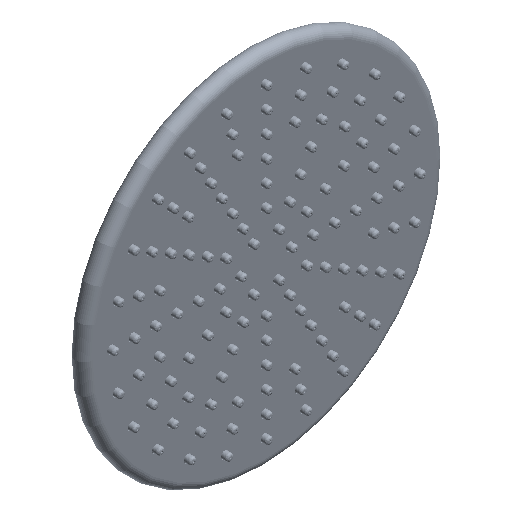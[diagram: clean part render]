
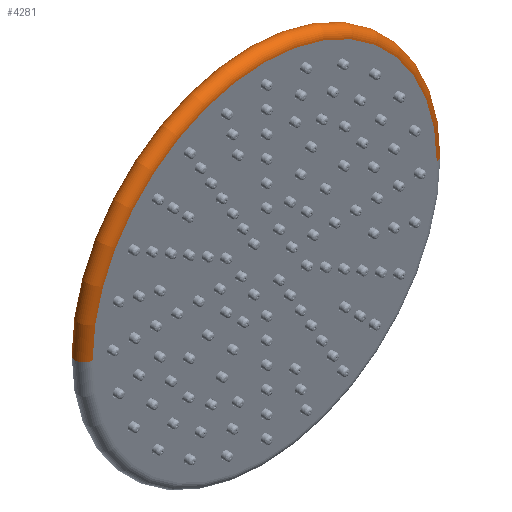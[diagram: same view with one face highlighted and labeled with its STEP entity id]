
A CAD part, isometric view. The second image highlights one B-rep face of the part: STEP entity #4281.
In plain terms, the highlighted toroidal (fillet/blend) face has major radius 119 mm and minor radius 6 mm.
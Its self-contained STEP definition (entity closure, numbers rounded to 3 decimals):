
#7=CARTESIAN_POINT('',(-119.,6.,0.));
#8=DIRECTION('',(0.,0.,1.));
#9=DIRECTION('',(0.,1.,0.));
#10=AXIS2_PLACEMENT_3D('',#7,#8,#9);
#12=CARTESIAN_POINT('',(-119.,6.,0.));
#13=DIRECTION('',(0.,0.,1.));
#14=DIRECTION('',(-1.,0.,0.));
#15=AXIS2_PLACEMENT_3D('',#12,#13,#14);
#25=CARTESIAN_POINT('',(0.,12.,0.));
#26=DIRECTION('',(0.,1.,0.));
#27=DIRECTION('',(-1.,0.,0.));
#28=AXIS2_PLACEMENT_3D('',#25,#26,#27);
#30=CARTESIAN_POINT('',(119.,6.,0.));
#31=DIRECTION('',(0.,0.,-1.));
#32=DIRECTION('',(0.,1.,0.));
#33=AXIS2_PLACEMENT_3D('',#30,#31,#32);
#35=CARTESIAN_POINT('',(119.,6.,0.));
#36=DIRECTION('',(0.,0.,-1.));
#37=DIRECTION('',(1.,0.,0.));
#38=AXIS2_PLACEMENT_3D('',#35,#36,#37);
#40=CARTESIAN_POINT('',(0.,0.,0.));
#41=DIRECTION('',(0.,1.,0.));
#42=DIRECTION('',(-1.,0.,0.));
#43=AXIS2_PLACEMENT_3D('',#40,#41,#42);
#3282=CARTESIAN_POINT('',(119.,12.,0.));
#3283=CARTESIAN_POINT('',(-119.,12.,0.));
#3284=VERTEX_POINT('',#3282);
#3285=VERTEX_POINT('',#3283);
#3286=CARTESIAN_POINT('',(-125.,6.,0.));
#3287=CARTESIAN_POINT('',(-119.,0.,0.));
#3288=VERTEX_POINT('',#3286);
#3289=VERTEX_POINT('',#3287);
#3290=CARTESIAN_POINT('',(119.,0.,0.));
#3291=VERTEX_POINT('',#3290);
#3292=CARTESIAN_POINT('',(125.,6.,0.));
#3293=VERTEX_POINT('',#3292);
#4267=CARTESIAN_POINT('',(0.,6.,0.));
#4268=DIRECTION('',(0.,1.,0.));
#4269=DIRECTION('',(1.,0.,0.));
#4270=AXIS2_PLACEMENT_3D('',#4267,#4268,#4269);
#4271=TOROIDAL_SURFACE('',#4270,119.,6.);
#4272=ORIENTED_EDGE('',*,*,#4258,.T.);
#4273=ORIENTED_EDGE('',*,*,#4233,.T.);
#4274=ORIENTED_EDGE('',*,*,#4231,.T.);
#4276=ORIENTED_EDGE('',*,*,#4275,.F.);
#4277=ORIENTED_EDGE('',*,*,#4227,.F.);
#4278=ORIENTED_EDGE('',*,*,#4225,.F.);
#4279=EDGE_LOOP('',(#4272,#4273,#4274,#4276,#4277,#4278));
#4280=FACE_OUTER_BOUND('',#4279,.F.);
#4281=ADVANCED_FACE('',(#4280),#4271,.T.);
#11=CIRCLE('',#10,6.);
#16=CIRCLE('',#15,6.);
#29=CIRCLE('',#28,119.);
#34=CIRCLE('',#33,6.);
#39=CIRCLE('',#38,6.);
#44=CIRCLE('',#43,119.);
#4225=EDGE_CURVE('',#3285,#3288,#11,.T.);
#4227=EDGE_CURVE('',#3288,#3289,#16,.T.);
#4231=EDGE_CURVE('',#3293,#3291,#39,.T.);
#4233=EDGE_CURVE('',#3284,#3293,#34,.T.);
#4258=EDGE_CURVE('',#3285,#3284,#29,.T.);
#4275=EDGE_CURVE('',#3289,#3291,#44,.T.);
